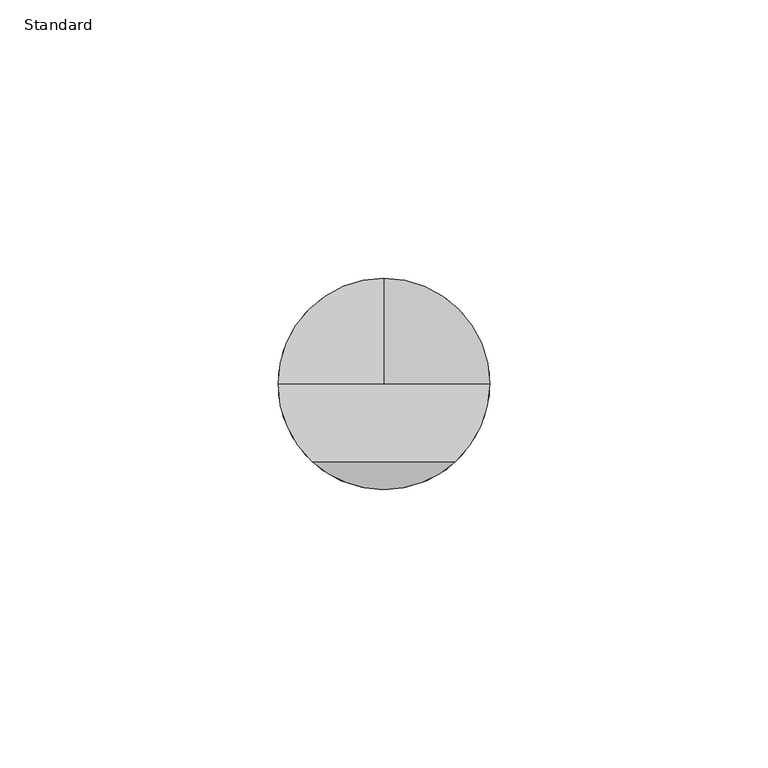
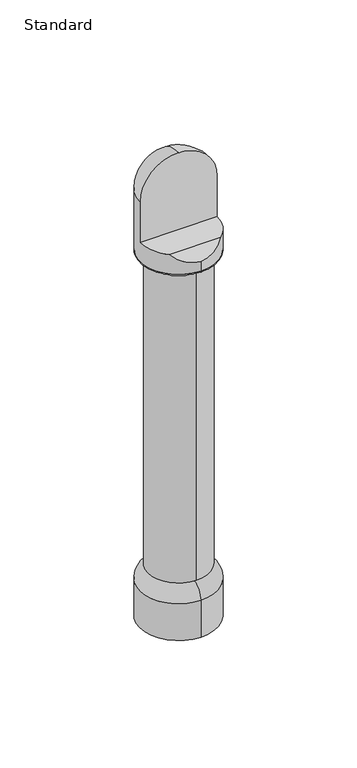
"""IFC4 building model written with IfcOpenShell, lengths in millimetres: furniture geometry, X_Partition-Foot-Duracube-Assembly : Standard."""

from ifc_helpers import new_model, si_unit, point, frame, origin, place, context, project, spatial, polyline, circle_curve, ellipse_curve, trimmed, source, transform, mapped, element, save
from ifc_brep_helpers import plane_surface, cylinder_surface, revolved_surface, advanced_brep


def standard_3d746f33(model_context):
    return source(origin(), model_context, "Body", "AdvancedBrep", [
        advanced_brep(
        [(44.7003264, -32.0, 27.0), (44.7003264, -8.0, 27.0), (44.7003264, -8.0, 26.0), (44.7003264, -32.0, 26.0), (44.7003264, -30.0, 27.0), (44.7003264, -10.0, 27.0), (44.7003264, -30.0, 0.0), (44.7003264, -10.0, 0.0), (44.7003264, -39.0, 0.0), (44.7003264, -1.0, 0.0), (44.7003264, -39.0, 19.0), (44.7003264, -1.0, 19.0)],
        [
            (0, 1, circle_curve(frame((44.7003264, -20.0, 27.0), z_axis=(0.0, 0.0, -1.0), x_axis=(0.0, 1.0, 0.0)), 12.0)),
            (1, 2),
            (2, 3, circle_curve(frame((44.7003264, -20.0, 26.0), z_axis=(0.0, 0.0, 1.0), x_axis=(0.0, 1.0, 0.0)), 12.0)),
            (3, 0),
            (1, 0, circle_curve(frame((44.7003264, -20.0, 27.0), z_axis=(0.0, 0.0, -1.0), x_axis=(0.0, 1.0, 0.0)), 12.0)),
            (3, 2, circle_curve(frame((44.7003264, -20.0, 26.0), z_axis=(0.0, 0.0, 1.0), x_axis=(0.0, 1.0, 0.0)), 12.0)),
            (4, 5, circle_curve(frame((44.7003264, -20.0, 27.0), z_axis=(0.0, 0.0, -1.0), x_axis=(0.0, 1.0, 0.0)), 10.0)),
            (5, 1),
            (0, 4),
            (5, 4, circle_curve(frame((44.7003264, -20.0, 27.0), z_axis=(0.0, 0.0, -1.0), x_axis=(0.0, 1.0, 0.0)), 10.0)),
            (6, 7, circle_curve(frame((44.7003264, -20.0, 0.0), z_axis=(0.0, 0.0, -1.0), x_axis=(0.0, 1.0, 0.0)), 10.0)),
            (7, 5),
            (4, 6),
            (7, 6, circle_curve(frame((44.7003264, -20.0, 0.0), z_axis=(0.0, 0.0, -1.0), x_axis=(0.0, 1.0, 0.0)), 10.0)),
            (8, 9, circle_curve(frame((44.7003264, -20.0, 0.0), z_axis=(0.0, 0.0, -1.0), x_axis=(0.0, 1.0, 0.0)), 19.0)),
            (9, 7),
            (6, 8),
            (9, 8, circle_curve(frame((44.7003264, -20.0, 0.0), z_axis=(0.0, 0.0, -1.0), x_axis=(0.0, 1.0, 0.0)), 19.0)),
            (10, 11, circle_curve(frame((44.7003264, -20.0, 19.0), z_axis=(0.0, 0.0, -1.0), x_axis=(0.0, 1.0, 0.0)), 19.0)),
            (11, 9),
            (8, 10),
            (11, 10, circle_curve(frame((44.7003264, -20.0, 19.0), z_axis=(0.0, 0.0, -1.0), x_axis=(0.0, 1.0, 0.0)), 19.0)),
            (2, 11, circle_curve(frame((44.7003264, -8.0, 19.0), z_axis=(-1.0, 0.0, 0.0), x_axis=(0.0, 1.0, 0.0)), 7.0)),
            (10, 3, circle_curve(frame((44.7003264, -32.0, 19.0), z_axis=(-1.0, 0.0, 0.0), x_axis=(0.0, -1.0, 0.0)), 7.0)),
        ],
        [
            cylinder_surface(frame((44.7003264, -20.0, 0.0), z_axis=(0.0, 0.0, 1.0), x_axis=(0.0, 1.0, 0.0)), 12.0),
            plane_surface(frame((44.7003264, -20.0, 27.0), z_axis=(0.0, 0.0, 1.0), x_axis=(0.0, 1.0, 0.0))),
            revolved_surface(polyline([(44.7003264, -10.0, 27.0), (44.7003264, -10.0, 0.0)]), (44.7003264, -20.0, 0.0), (0.0, 0.0, 1.0)),
            plane_surface(frame((44.7003264, -20.0, 0.0), z_axis=(0.0, 0.0, -1.0), x_axis=(0.0, 1.0, 0.0))),
            cylinder_surface(frame((44.7003264, -20.0, 0.0), z_axis=(0.0, 0.0, 1.0), x_axis=(0.0, 1.0, 0.0)), 19.0),
            revolved_surface(trimmed(ellipse_curve(frame((44.7003264, -8.0, 19.0), z_axis=(1.0, 0.0, 0.0), x_axis=(0.0, 1.0, 0.0)), 7.0, 7.0), [point((44.7003264, -1.0, 19.0))], [point((44.7003264, -8.0, 26.0))], True, "CARTESIAN"), (44.7003264, -20.0, 0.0), (0.0, 0.0, 1.0)),
        ],
        [
            (0, [[1, 2, 3, 4]]),
            (0, [[5, -4, 6, -2]]),
            (1, [[7, 8, -1, 9]]),
            (1, [[10, -9, -5, -8]]),
            (2, [[11, 12, -7, 13]]),
            (2, [[14, -13, -10, -12]]),
            (3, [[15, 16, -11, 17]]),
            (3, [[18, -17, -14, -16]]),
            (4, [[19, 20, -15, 21]]),
            (4, [[22, -21, -18, -20]]),
            (5, [[-3, 23, -19, 24]]),
            (5, [[-6, -24, -22, -23]]),
        ],
    ),
        advanced_brep(
        [(44.7003264, -35.0, 27.0), (44.7003264, -5.0, 27.0), (44.7003264, -20.0, 27.0), (44.7003264, -35.0, 189.0), (44.7003264, -5.0, 189.0), (44.7003264, -20.0, 189.0)],
        [
            (0, 1, circle_curve(frame((44.7003264, -20.0, 27.0), z_axis=(0.0, 0.0, -1.0), x_axis=(0.0, 1.0, 0.0)), 15.0)),
            (1, 2),
            (2, 0),
            (1, 0, circle_curve(frame((44.7003264, -20.0, 27.0), z_axis=(0.0, 0.0, -1.0), x_axis=(0.0, 1.0, 0.0)), 15.0)),
            (3, 4, circle_curve(frame((44.7003264, -20.0, 189.0), z_axis=(0.0, 0.0, -1.0), x_axis=(0.0, 1.0, 0.0)), 15.0)),
            (4, 1),
            (0, 3),
            (4, 3, circle_curve(frame((44.7003264, -20.0, 189.0), z_axis=(0.0, 0.0, -1.0), x_axis=(0.0, 1.0, 0.0)), 15.0)),
            (5, 4),
            (3, 5),
        ],
        [
            plane_surface(frame((44.7003264, -20.0, 27.0), z_axis=(0.0, 0.0, -1.0), x_axis=(0.0, 1.0, 0.0))),
            cylinder_surface(frame((44.7003264, -20.0, 197.0), z_axis=(0.0, 0.0, 1.0), x_axis=(0.0, 1.0, 0.0)), 15.0),
            plane_surface(frame((44.7003264, -20.0, 189.0), z_axis=(0.0, 0.0, 1.0), x_axis=(0.0, 1.0, 0.0))),
        ],
        [
            (0, [[1, 2, 3]]),
            (0, [[4, -3, -2]]),
            (1, [[5, 6, -1, 7]]),
            (1, [[8, -7, -4, -6]]),
            (2, [[9, -5, 10]]),
            (2, [[-10, -8, -9]]),
        ],
    ),
        advanced_brep(
        [(44.7003264, -38.0, 189.0), (44.7003264, -2.0, 189.0), (44.7003264, -15.0, 189.0), (44.7003264, -25.0, 189.0), (44.7003264, -15.0, 27.0), (44.7003264, -25.0, 27.0), (44.7003264, -20.0, 27.0), (44.7003264, -39.0, 190.0), (44.7003264, -1.0, 190.0), (44.7003264, -39.0, 195.0), (31.8550939, -34.0, 200.0), (25.7003264, -20.0, 200.0), (25.7003264, -20.0, 221.0), (44.7003264, -1.0, 221.0), (63.7003264, -20.0, 221.0), (63.7003264, -20.0, 200.0), (57.545559, -34.0, 200.0), (44.7003264, -20.0, 240.0)],
        [
            (0, 1, circle_curve(frame((44.7003264, -20.0, 189.0), z_axis=(0.0, 0.0, -1.0), x_axis=(0.0, 1.0, 0.0)), 18.0)),
            (1, 2),
            (2, 3, circle_curve(frame((44.7003264, -20.0, 189.0), z_axis=(0.0, 0.0, 1.0), x_axis=(0.0, 1.0, 0.0)), 5.0)),
            (3, 0),
            (1, 0, circle_curve(frame((44.7003264, -20.0, 189.0), z_axis=(0.0, 0.0, -1.0), x_axis=(0.0, 1.0, 0.0)), 18.0)),
            (3, 2, circle_curve(frame((44.7003264, -20.0, 189.0), z_axis=(0.0, 0.0, 1.0), x_axis=(0.0, 1.0, 0.0)), 5.0)),
            (2, 4),
            (4, 5, circle_curve(frame((44.7003264, -20.0, 27.0), z_axis=(0.0, 0.0, 1.0), x_axis=(0.0, 1.0, 0.0)), 5.0)),
            (5, 3),
            (5, 4, circle_curve(frame((44.7003264, -20.0, 27.0), z_axis=(0.0, 0.0, 1.0), x_axis=(0.0, 1.0, 0.0)), 5.0)),
            (4, 6),
            (6, 5),
            (0, 7, circle_curve(frame((44.7003264, -38.0, 190.0), z_axis=(-1.0, 0.0, 0.0), x_axis=(0.0, -1.0, 0.0)), 1.0)),
            (7, 8, circle_curve(frame((44.7003264, -20.0, 190.0), z_axis=(0.0, 0.0, -1.0), x_axis=(0.0, 1.0, 0.0)), 19.0)),
            (8, 1, circle_curve(frame((44.7003264, -2.0, 190.0), z_axis=(-1.0, 0.0, 0.0), x_axis=(0.0, 1.0, 0.0)), 1.0)),
            (8, 7, circle_curve(frame((44.7003264, -20.0, 190.0), z_axis=(0.0, 0.0, -1.0), x_axis=(0.0, 1.0, 0.0)), 19.0)),
            (7, 9),
            (9, 10, ellipse_curve(frame((44.7003264, -20.0, 214.0), z_axis=(0.0, 0.7071067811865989, -0.7071067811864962), x_axis=(0.0, 0.7071067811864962, 0.7071067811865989)), 26.8700577, 19.0)),
            (10, 11, circle_curve(frame((44.7003264, -20.0, 200.0), z_axis=(0.0, 0.0, -1.0), x_axis=(0.0, 1.0, 0.0)), 19.0)),
            (11, 12),
            (12, 13, circle_curve(frame((44.7003264, -20.0, 221.0), z_axis=(0.0, 0.0, -1.0), x_axis=(0.0, 1.0, 0.0)), 19.0)),
            (13, 8),
            (13, 14, circle_curve(frame((44.7003264, -20.0, 221.0), z_axis=(0.0, 0.0, -1.0), x_axis=(0.0, 1.0, 0.0)), 19.0)),
            (14, 15),
            (15, 16, circle_curve(frame((44.7003264, -20.0, 200.0), z_axis=(0.0, 0.0, -1.0), x_axis=(0.0, 1.0, 0.0)), 19.0)),
            (16, 9, ellipse_curve(frame((44.7003264, -20.0, 214.0), z_axis=(0.0, 0.7071067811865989, -0.7071067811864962), x_axis=(0.0, 0.7071067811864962, 0.7071067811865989)), 26.8700577, 19.0)),
            (17, 13, circle_curve(frame((44.7003264, -20.0, 221.0), z_axis=(-1.0, 0.0, 0.0), x_axis=(0.0, 1.0, 0.0)), 19.0)),
            (12, 17, circle_curve(frame((44.7003264, -20.0, 221.0), z_axis=(0.0, 1.0, 0.0), x_axis=(-1.0, 0.0, 0.0)), 19.0)),
            (17, 14, circle_curve(frame((44.7003264, -20.0, 221.0), z_axis=(0.0, 1.0, 0.0), x_axis=(1.0, 0.0, 0.0)), 19.0)),
            (10, 16),
            (15, 11),
        ],
        [
            plane_surface(frame((44.7003264, -20.0, 189.0), z_axis=(0.0, 0.0, -1.0), x_axis=(0.0, 1.0, 0.0))),
            cylinder_surface(frame((44.7003264, -20.0, 240.0), z_axis=(0.0, 0.0, 1.0), x_axis=(0.0, 1.0, 0.0)), 5.0),
            plane_surface(frame((44.7003264, -20.0, 27.0), z_axis=(0.0, 0.0, -1.0), x_axis=(0.0, 1.0, 0.0))),
            revolved_surface(trimmed(ellipse_curve(frame((44.7003264, -2.0, 190.0), z_axis=(1.0, 0.0, 0.0), x_axis=(0.0, 1.0, 0.0)), 1.0, 1.0), [point((44.7003264, -2.0, 189.0))], [point((44.7003264, -1.0, 190.0))], True, "CARTESIAN"), (44.7003264, -20.0, 240.0), (0.0, 0.0, 1.0)),
            cylinder_surface(frame((44.7003264, -20.0, 240.0), z_axis=(0.0, 0.0, 1.0), x_axis=(0.0, 1.0, 0.0)), 19.0),
            revolved_surface(trimmed(ellipse_curve(frame((44.7003264, -20.0, 221.0), z_axis=(1.0, 0.0, 0.0), x_axis=(0.0, 1.0, 0.0)), 19.0, 19.0), [point((44.7003264, -1.0, 221.0))], [point((44.7003264, -20.0, 240.0))], True, "CARTESIAN"), (44.7003264, -20.0, 240.0), (0.0, 0.0, 1.0)),
            plane_surface(frame((64.7003264, -34.0, 200.0), z_axis=(0.0, 0.0, 1.0), x_axis=(-1.0, 0.0, 0.0))),
            plane_surface(frame((64.7003264, -20.0, 200.0), z_axis=(0.0, -1.0, 0.0), x_axis=(-1.0, 0.0, 0.0))),
            plane_surface(frame((64.7003264, -40.0, 194.0), z_axis=(0.0, -0.7071067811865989, 0.7071067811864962), x_axis=(-1.0, 0.0, 0.0))),
        ],
        [
            (0, [[1, 2, 3, 4]]),
            (0, [[-2, 5, -4, 6]]),
            (1, [[-3, 7, 8, 9]]),
            (1, [[-6, -9, 10, -7]]),
            (2, [[-8, 11, 12]]),
            (2, [[-10, -12, -11]]),
            (3, [[-1, 13, 14, 15]]),
            (3, [[-5, -15, 16, -13]]),
            (4, [[-14, 17, 18, 19, 20, 21, 22]]),
            (4, [[-16, -22, 23, 24, 25, 26, -17]]),
            (5, [[27, -21, 28]]),
            (5, [[-27, 29, -23]]),
            (6, [[30, -25, 31, -19]]),
            (7, [[-31, -24, -29, -28, -20]]),
            (8, [[-30, -18, -26]]),
        ],
    ),
    ])


if __name__ == "__main__":
    model = new_model("IFC4")
    model_context = context("Model", 3, world=origin())
    ifc_project = project(units=[si_unit("LENGTHUNIT", "METRE", prefix="MILLI")], contexts=[model_context])
    site = spatial("IfcSite", under=ifc_project)
    building = spatial("IfcBuilding", under=site)
    placement = place(None, origin())
    standard_shape = standard_3d746f33(model_context)
    element("IfcFurniture", 1, ObjectType="X_Partition-Foot-Duracube-Assembly : Standard", at=placement, inside=building, context=model_context, shape_type="MappedRepresentation", body=[
        mapped(standard_shape, transform((0.0, 0.0, 0.0), x_axis=(1.0, 0.0, 0.0), y_axis=(0.0, 1.0, 0.0), z_axis=(0.0, 0.0, 1.0))),
    ])
    save(model, "model.ifc")
